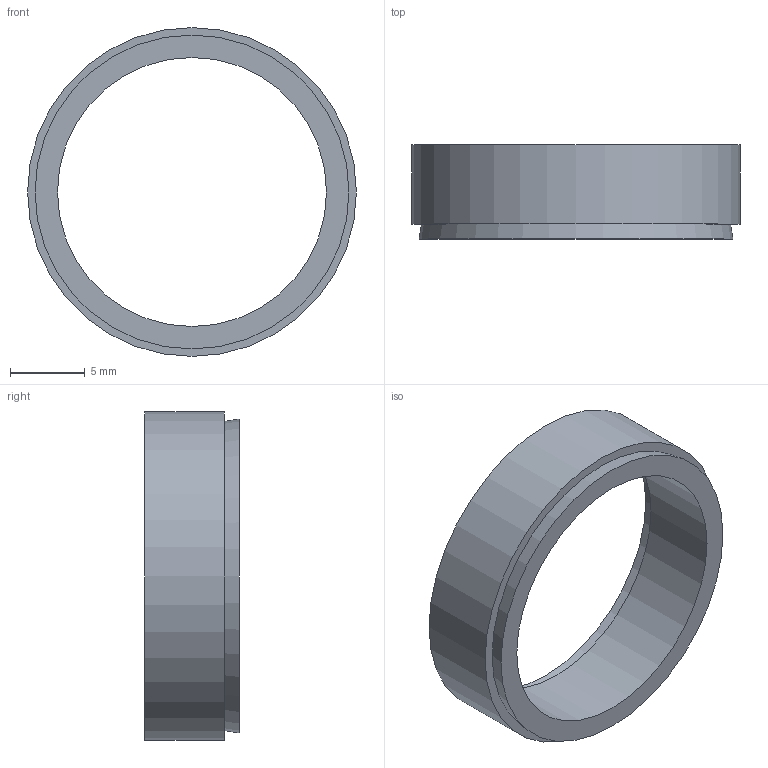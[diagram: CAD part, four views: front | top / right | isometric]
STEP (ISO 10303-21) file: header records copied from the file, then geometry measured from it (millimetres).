
FILE_DESCRIPTION( ( 'Unknown' ), '1' );
FILE_NAME( 'C:/Dokumente und Einstellungen/Sven/Desktop/homepage/cad - homepage/KBS50/KBS 50 - 18 x 22.stp', 'Unknown', ( 'Unknown' ), ( 'Unknown' ), 'XStep 1.0', 'Unknown', ' ' );
FILE_SCHEMA( ( 'automotive_design' ) );
Length unit declared in the file: millimetre
Products named in the file (1): 1
Bounding box: 22 x 6.3 x 22 mm (x, y, z)
Volume: 718.9 mm3; surface area: 1064.5 mm2
Topology: 1 solids, 1 shells, 8 faces, 12 edges, 8 vertices
Faces by surface type: plane 4, cylinder 2, cone 2
Full cylindrical faces by diameter (mm): 18 x1, 22 x1
Entity records: 248 total; most frequent: DIRECTION 34, CARTESIAN_POINT 25, AXIS2_PLACEMENT_3D 17, EDGE_LOOP 16, ORIENTED_EDGE 16, FACE_OUTER_BOUND 10, STYLED_ITEM 8, PRESENTATION_STYLE_ASSIGNMENT 8
